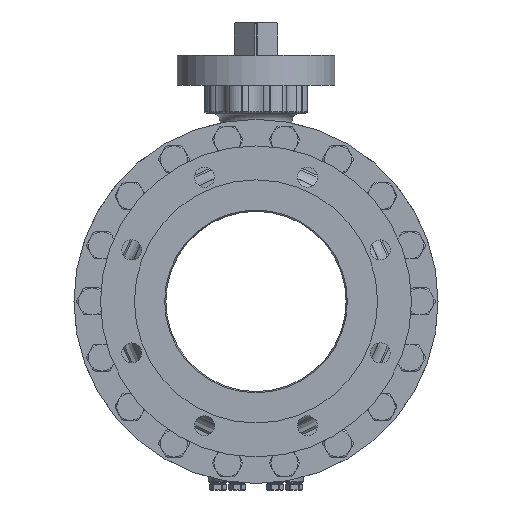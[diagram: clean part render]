
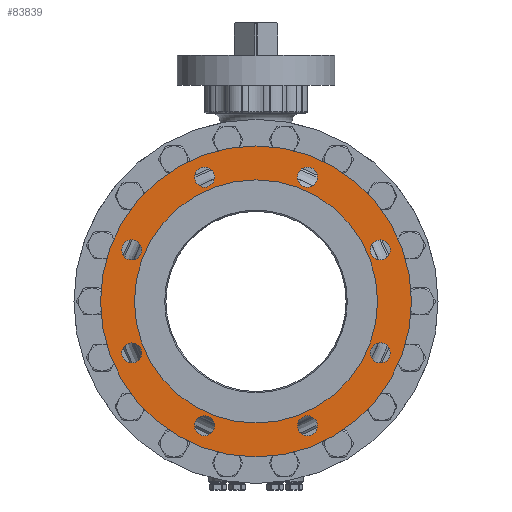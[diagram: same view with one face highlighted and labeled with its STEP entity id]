
A CAD part, left-side view. The second image highlights one B-rep face of the part: STEP entity #83839.
In plain terms, the highlighted planar face has unit normal (-1, 0, 0).
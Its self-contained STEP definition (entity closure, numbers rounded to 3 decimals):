
#10204=CARTESIAN_POINT('',(-227.,0.,0.));
#10205=DIRECTION('',(1.,0.,0.));
#10206=DIRECTION('',(0.,0.,1.));
#10207=AXIS2_PLACEMENT_3D('',#10204,#10205,#10206);
#10209=CARTESIAN_POINT('',(-227.,0.,0.));
#10210=DIRECTION('',(-1.,0.,0.));
#10211=DIRECTION('',(0.,0.,1.));
#10212=AXIS2_PLACEMENT_3D('',#10209,#10210,#10211);
#10214=CARTESIAN_POINT('',(-227.,0.,0.));
#10215=DIRECTION('',(1.,0.,0.));
#10216=DIRECTION('',(0.,0.,1.));
#10217=AXIS2_PLACEMENT_3D('',#10214,#10215,#10216);
#10219=CARTESIAN_POINT('',(-227.,0.,0.));
#10220=DIRECTION('',(-1.,0.,0.));
#10221=DIRECTION('',(0.,0.,1.));
#10222=AXIS2_PLACEMENT_3D('',#10219,#10220,#10221);
#10224=CARTESIAN_POINT('',(-227.,57.116,137.889));
#10225=DIRECTION('',(-1.,0.,0.));
#10226=DIRECTION('',(0.,-1.,0.));
#10227=AXIS2_PLACEMENT_3D('',#10224,#10225,#10226);
#10229=CARTESIAN_POINT('',(-227.,57.116,137.889));
#10230=DIRECTION('',(-1.,0.,0.));
#10231=DIRECTION('',(0.,1.,0.));
#10232=AXIS2_PLACEMENT_3D('',#10229,#10230,#10231);
#10234=CARTESIAN_POINT('',(-227.,137.889,57.116));
#10235=DIRECTION('',(-1.,0.,0.));
#10236=DIRECTION('',(0.,-0.707,0.707));
#10237=AXIS2_PLACEMENT_3D('',#10234,#10235,#10236);
#10239=CARTESIAN_POINT('',(-227.,137.889,57.116));
#10240=DIRECTION('',(-1.,0.,0.));
#10241=DIRECTION('',(0.,0.707,-0.707));
#10242=AXIS2_PLACEMENT_3D('',#10239,#10240,#10241);
#10244=CARTESIAN_POINT('',(-227.,137.889,-57.116));
#10245=DIRECTION('',(-1.,0.,0.));
#10246=DIRECTION('',(0.,0.,1.));
#10247=AXIS2_PLACEMENT_3D('',#10244,#10245,#10246);
#10249=CARTESIAN_POINT('',(-227.,137.889,-57.116));
#10250=DIRECTION('',(-1.,0.,0.));
#10251=DIRECTION('',(0.,0.,-1.));
#10252=AXIS2_PLACEMENT_3D('',#10249,#10250,#10251);
#10254=CARTESIAN_POINT('',(-227.,57.116,-137.889));
#10255=DIRECTION('',(-1.,0.,0.));
#10256=DIRECTION('',(0.,0.707,0.707));
#10257=AXIS2_PLACEMENT_3D('',#10254,#10255,#10256);
#10259=CARTESIAN_POINT('',(-227.,57.116,-137.889));
#10260=DIRECTION('',(-1.,0.,0.));
#10261=DIRECTION('',(0.,-0.707,-0.707));
#10262=AXIS2_PLACEMENT_3D('',#10259,#10260,#10261);
#10264=CARTESIAN_POINT('',(-227.,-57.116,-137.889));
#10265=DIRECTION('',(-1.,0.,0.));
#10266=DIRECTION('',(0.,1.,0.));
#10267=AXIS2_PLACEMENT_3D('',#10264,#10265,#10266);
#10269=CARTESIAN_POINT('',(-227.,-57.116,-137.889));
#10270=DIRECTION('',(-1.,0.,0.));
#10271=DIRECTION('',(0.,-1.,0.));
#10272=AXIS2_PLACEMENT_3D('',#10269,#10270,#10271);
#10274=CARTESIAN_POINT('',(-227.,-137.889,-57.116));
#10275=DIRECTION('',(-1.,0.,0.));
#10276=DIRECTION('',(0.,0.707,-0.707));
#10277=AXIS2_PLACEMENT_3D('',#10274,#10275,#10276);
#10279=CARTESIAN_POINT('',(-227.,-137.889,-57.116));
#10280=DIRECTION('',(-1.,0.,0.));
#10281=DIRECTION('',(0.,-0.707,0.707));
#10282=AXIS2_PLACEMENT_3D('',#10279,#10280,#10281);
#10284=CARTESIAN_POINT('',(-227.,-137.889,57.116));
#10285=DIRECTION('',(-1.,0.,0.));
#10286=DIRECTION('',(0.,0.,-1.));
#10287=AXIS2_PLACEMENT_3D('',#10284,#10285,#10286);
#10289=CARTESIAN_POINT('',(-227.,-137.889,57.116));
#10290=DIRECTION('',(-1.,0.,0.));
#10291=DIRECTION('',(0.,0.,1.));
#10292=AXIS2_PLACEMENT_3D('',#10289,#10290,#10291);
#10294=CARTESIAN_POINT('',(-227.,-57.116,137.889));
#10295=DIRECTION('',(-1.,0.,0.));
#10296=DIRECTION('',(0.,-0.707,-0.707));
#10297=AXIS2_PLACEMENT_3D('',#10294,#10295,#10296);
#10299=CARTESIAN_POINT('',(-227.,-57.116,137.889));
#10300=DIRECTION('',(-1.,0.,0.));
#10301=DIRECTION('',(0.,0.707,0.707));
#10302=AXIS2_PLACEMENT_3D('',#10299,#10300,#10301);
#59649=CARTESIAN_POINT('',(-227.,0.,172.5));
#59651=VERTEX_POINT('',#59649);
#59657=CARTESIAN_POINT('',(-227.,0.,-172.5));
#59659=VERTEX_POINT('',#59657);
#59689=CARTESIAN_POINT('',(-227.,45.966,137.889));
#59690=VERTEX_POINT('',#59689);
#59691=CARTESIAN_POINT('',(-227.,68.266,137.889));
#59692=VERTEX_POINT('',#59691);
#59697=CARTESIAN_POINT('',(-227.,130.005,65.));
#59698=VERTEX_POINT('',#59697);
#59699=CARTESIAN_POINT('',(-227.,145.773,49.231));
#59700=VERTEX_POINT('',#59699);
#59705=CARTESIAN_POINT('',(-227.,137.889,-45.966));
#59706=VERTEX_POINT('',#59705);
#59707=CARTESIAN_POINT('',(-227.,137.889,-68.266));
#59708=VERTEX_POINT('',#59707);
#59713=CARTESIAN_POINT('',(-227.,65.,-130.005));
#59714=VERTEX_POINT('',#59713);
#59715=CARTESIAN_POINT('',(-227.,49.231,-145.773));
#59716=VERTEX_POINT('',#59715);
#59721=CARTESIAN_POINT('',(-227.,-45.966,-137.889));
#59722=VERTEX_POINT('',#59721);
#59723=CARTESIAN_POINT('',(-227.,-68.266,-137.889));
#59724=VERTEX_POINT('',#59723);
#59729=CARTESIAN_POINT('',(-227.,-130.005,-65.));
#59730=VERTEX_POINT('',#59729);
#59731=CARTESIAN_POINT('',(-227.,-145.773,-49.231));
#59732=VERTEX_POINT('',#59731);
#59737=CARTESIAN_POINT('',(-227.,-137.889,45.966));
#59738=VERTEX_POINT('',#59737);
#59739=CARTESIAN_POINT('',(-227.,-137.889,68.266));
#59740=VERTEX_POINT('',#59739);
#59745=CARTESIAN_POINT('',(-227.,-65.,130.005));
#59746=VERTEX_POINT('',#59745);
#59747=CARTESIAN_POINT('',(-227.,-49.231,145.773));
#59748=VERTEX_POINT('',#59747);
#59750=CARTESIAN_POINT('',(-227.,0.,134.85));
#59752=VERTEX_POINT('',#59750);
#59754=CARTESIAN_POINT('',(-227.,0.,-134.85));
#59756=VERTEX_POINT('',#59754);
#83776=CARTESIAN_POINT('',(-227.,0.,0.));
#83777=DIRECTION('',(-1.,0.,0.));
#83778=DIRECTION('',(0.,0.,-1.));
#83779=AXIS2_PLACEMENT_3D('',#83776,#83777,#83778);
#83780=PLANE('',#83779);
#83781=ORIENTED_EDGE('',*,*,#83769,.F.);
#83782=ORIENTED_EDGE('',*,*,#83758,.T.);
#83783=EDGE_LOOP('',(#83781,#83782));
#83784=FACE_OUTER_BOUND('',#83783,.F.);
#83786=ORIENTED_EDGE('',*,*,#83785,.F.);
#83788=ORIENTED_EDGE('',*,*,#83787,.T.);
#83789=EDGE_LOOP('',(#83786,#83788));
#83790=FACE_BOUND('',#83789,.F.);
#83792=ORIENTED_EDGE('',*,*,#83791,.T.);
#83794=ORIENTED_EDGE('',*,*,#83793,.T.);
#83795=EDGE_LOOP('',(#83792,#83794));
#83796=FACE_BOUND('',#83795,.F.);
#83798=ORIENTED_EDGE('',*,*,#83797,.T.);
#83800=ORIENTED_EDGE('',*,*,#83799,.T.);
#83801=EDGE_LOOP('',(#83798,#83800));
#83802=FACE_BOUND('',#83801,.F.);
#83804=ORIENTED_EDGE('',*,*,#83803,.T.);
#83806=ORIENTED_EDGE('',*,*,#83805,.T.);
#83807=EDGE_LOOP('',(#83804,#83806));
#83808=FACE_BOUND('',#83807,.F.);
#83810=ORIENTED_EDGE('',*,*,#83809,.T.);
#83812=ORIENTED_EDGE('',*,*,#83811,.T.);
#83813=EDGE_LOOP('',(#83810,#83812));
#83814=FACE_BOUND('',#83813,.F.);
#83816=ORIENTED_EDGE('',*,*,#83815,.T.);
#83818=ORIENTED_EDGE('',*,*,#83817,.T.);
#83819=EDGE_LOOP('',(#83816,#83818));
#83820=FACE_BOUND('',#83819,.F.);
#83822=ORIENTED_EDGE('',*,*,#83821,.T.);
#83824=ORIENTED_EDGE('',*,*,#83823,.T.);
#83825=EDGE_LOOP('',(#83822,#83824));
#83826=FACE_BOUND('',#83825,.F.);
#83828=ORIENTED_EDGE('',*,*,#83827,.T.);
#83830=ORIENTED_EDGE('',*,*,#83829,.T.);
#83831=EDGE_LOOP('',(#83828,#83830));
#83832=FACE_BOUND('',#83831,.F.);
#83834=ORIENTED_EDGE('',*,*,#83833,.T.);
#83836=ORIENTED_EDGE('',*,*,#83835,.T.);
#83837=EDGE_LOOP('',(#83834,#83836));
#83838=FACE_BOUND('',#83837,.F.);
#83839=ADVANCED_FACE('',(#83784,#83790,#83796,#83802,#83808,#83814,#83820,
#83826,#83832,#83838),#83780,.T.);
#10208=CIRCLE('',#10207,172.5);
#10213=CIRCLE('',#10212,172.5);
#10218=CIRCLE('',#10217,134.85);
#10223=CIRCLE('',#10222,134.85);
#10228=CIRCLE('',#10227,11.15);
#10233=CIRCLE('',#10232,11.15);
#10238=CIRCLE('',#10237,11.15);
#10243=CIRCLE('',#10242,11.15);
#10248=CIRCLE('',#10247,11.15);
#10253=CIRCLE('',#10252,11.15);
#10258=CIRCLE('',#10257,11.15);
#10263=CIRCLE('',#10262,11.15);
#10268=CIRCLE('',#10267,11.15);
#10273=CIRCLE('',#10272,11.15);
#10278=CIRCLE('',#10277,11.15);
#10283=CIRCLE('',#10282,11.15);
#10288=CIRCLE('',#10287,11.15);
#10293=CIRCLE('',#10292,11.15);
#10298=CIRCLE('',#10297,11.15);
#10303=CIRCLE('',#10302,11.15);
#83758=EDGE_CURVE('',#59651,#59659,#10208,.T.);
#83769=EDGE_CURVE('',#59651,#59659,#10213,.T.);
#83785=EDGE_CURVE('',#59752,#59756,#10218,.T.);
#83787=EDGE_CURVE('',#59752,#59756,#10223,.T.);
#83791=EDGE_CURVE('',#59690,#59692,#10228,.T.);
#83793=EDGE_CURVE('',#59692,#59690,#10233,.T.);
#83797=EDGE_CURVE('',#59698,#59700,#10238,.T.);
#83799=EDGE_CURVE('',#59700,#59698,#10243,.T.);
#83803=EDGE_CURVE('',#59706,#59708,#10248,.T.);
#83805=EDGE_CURVE('',#59708,#59706,#10253,.T.);
#83809=EDGE_CURVE('',#59714,#59716,#10258,.T.);
#83811=EDGE_CURVE('',#59716,#59714,#10263,.T.);
#83815=EDGE_CURVE('',#59722,#59724,#10268,.T.);
#83817=EDGE_CURVE('',#59724,#59722,#10273,.T.);
#83821=EDGE_CURVE('',#59730,#59732,#10278,.T.);
#83823=EDGE_CURVE('',#59732,#59730,#10283,.T.);
#83827=EDGE_CURVE('',#59738,#59740,#10288,.T.);
#83829=EDGE_CURVE('',#59740,#59738,#10293,.T.);
#83833=EDGE_CURVE('',#59746,#59748,#10298,.T.);
#83835=EDGE_CURVE('',#59748,#59746,#10303,.T.);
